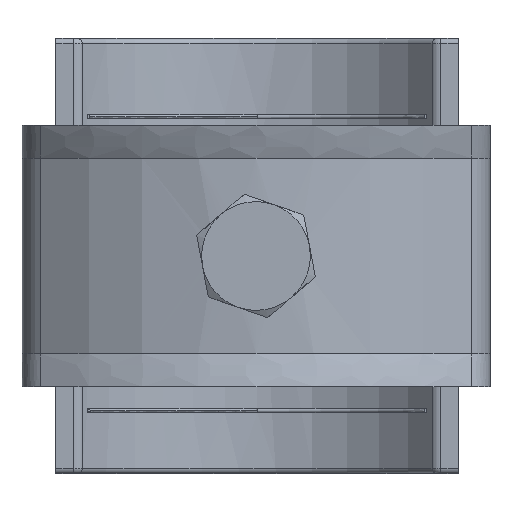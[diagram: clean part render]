
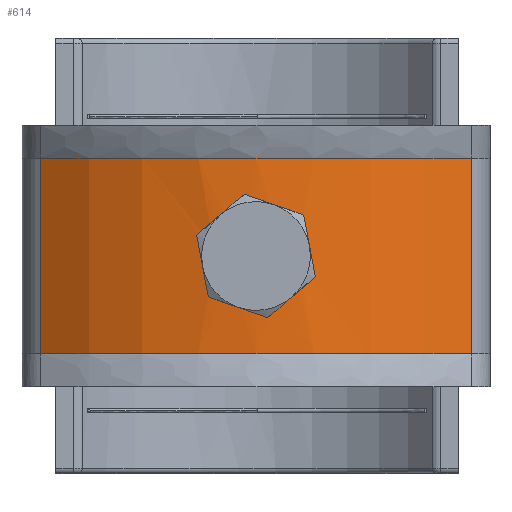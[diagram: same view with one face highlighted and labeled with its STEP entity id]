
A CAD part, front view. The second image highlights one B-rep face of the part: STEP entity #614.
In plain terms, the highlighted cylindrical face has radius 32 mm (diameter 64 mm), a partial arc.
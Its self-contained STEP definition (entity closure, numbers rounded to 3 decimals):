
#614=ADVANCED_FACE('',(#2883,#2885),#2887,.T.);
#2883=FACE_BOUND('',#2884,.T.);
#2884=EDGE_LOOP('',(#4930,#4931,#4932,#4933));
#2885=FACE_BOUND('',#2886,.T.);
#2886=EDGE_LOOP('',(#4934));
#2887=CYLINDRICAL_SURFACE('',#2888,32.);
#2888=AXIS2_PLACEMENT_3D('',#2889,#2890,#2891);
#2889=CARTESIAN_POINT('',(0.,31.985,-9.));
#2890=DIRECTION('',(0.,0.,1.));
#2891=DIRECTION('',(-0.618,-0.786,0.));
#4930=ORIENTED_EDGE('',*,*,#5858,.F.);
#4931=ORIENTED_EDGE('',*,*,#5843,.T.);
#4932=ORIENTED_EDGE('',*,*,#5853,.F.);
#4933=ORIENTED_EDGE('',*,*,#5837,.F.);
#4934=ORIENTED_EDGE('',*,*,#5859,.F.);
#5837=EDGE_CURVE('',#6477,#6480,#6481,.T.);
#5843=EDGE_CURVE('',#6487,#6484,#6489,.T.);
#5853=EDGE_CURVE('',#6480,#6484,#6502,.T.);
#5858=EDGE_CURVE('',#6487,#6477,#6508,.F.);
#5859=EDGE_CURVE('',#6509,#6509,#6510,.T.);
#6477=VERTEX_POINT('',#7696);
#6480=VERTEX_POINT('',#7704);
#6481=LINE('',#7705,#7706);
#6484=VERTEX_POINT('',#7715);
#6487=VERTEX_POINT('',#7723);
#6489=LINE('',#7728,#7729);
#6502=CIRCLE('',#7765,32.);
#6508=CIRCLE('',#7784,32.);
#6509=VERTEX_POINT('',#7788);
#6510=B_SPLINE_CURVE_WITH_KNOTS('',3,
(#7789,#7790,#7791,#7792,#7793,#7794,#7795,#7796,#7797,#7798,#7799,#7800,#7801,#7802,
#7803,#7804,#7805,#7806,#7807,#7808,#7809,#7810,#7811,#7812,#7813,#7814,#7815,#7816,
#7817,#7818,#7819,#7820,#7821,#7822,#7823,#7824,#7825,#7826,#7827,#7828,#7829,#7830,
#7831,#7832,#7833,#7834,#7835,#7836,#7837,#7838,#7839,#7840,#7841,#7842,#7843,#7844,
#7845,#7846,#7847,#7848,#7849,#7850,#7851,#7852,#7853,#7854,#7855,#7856,#7857,#7858,
#7859,#7860,#7861,#7862,#7863,#7864,#7865,#7866,#7867,#7868,#7869,#7870,#7871),
.UNSPECIFIED.,.T.,.F.,
(4,1,1,1,1,1,1,1,1,1,1,1,1,1,1,1,1,1,1,1,1,1,1,1,1,1,1,1,1,1,1,1,1,1,1,1,1,1,1,1,
1,1,1,1,1,1,1,1,1,1,1,1,1,1,1,1,1,1,1,1,1,1,1,1,1,1,1,1,1,1,1,1,1,1,1,1,1,1,1,1,
4),
(0.,0.012,0.024,0.038,0.053,
0.071,0.091,0.11,0.127,0.141,
0.153,0.164,0.178,0.195,0.212,
0.229,0.243,0.257,0.274,0.292,
0.311,0.326,0.338,0.346,0.354,
0.362,0.372,0.384,0.398,0.413,
0.426,0.44,0.454,0.467,0.479,
0.491,0.501,0.511,0.518,0.526,
0.535,0.544,0.553,0.565,0.58,
0.596,0.612,0.625,0.636,0.648,
0.66,0.671,0.683,0.697,0.711,
0.726,0.74,0.754,0.768,0.784,
0.802,0.819,0.834,0.844,0.853,
0.86,0.866,0.872,0.878,0.884,
0.892,0.903,0.916,0.931,0.945,
0.957,0.967,0.976,0.984,0.992,
1.),
.UNSPECIFIED.);
#7696=CARTESIAN_POINT('',(-19.782,6.832,-9.));
#7704=CARTESIAN_POINT('',(-19.782,6.832,9.));
#7705=CARTESIAN_POINT('',(-19.782,6.832,-9.));
#7706=VECTOR('',#7707,1.);
#7707=DIRECTION('',(0.,0.,1.));
#7715=CARTESIAN_POINT('',(19.782,6.832,9.));
#7723=CARTESIAN_POINT('',(19.782,6.832,-9.));
#7728=CARTESIAN_POINT('',(19.782,6.832,-9.));
#7729=VECTOR('',#7730,1.);
#7730=DIRECTION('',(0.,0.,1.));
#7765=AXIS2_PLACEMENT_3D('',#7766,#7767,#7768);
#7766=CARTESIAN_POINT('',(0.,31.985,9.));
#7767=DIRECTION('',(0.,0.,1.));
#7768=DIRECTION('',(-0.618,-0.786,0.));
#7784=AXIS2_PLACEMENT_3D('',#7785,#7786,#7787);
#7785=CARTESIAN_POINT('',(0.,31.985,-9.));
#7786=DIRECTION('',(0.,0.,1.));
#7787=DIRECTION('',(-0.618,-0.786,0.));
#7788=CARTESIAN_POINT('',(3.938,0.23,0.));
#7789=CARTESIAN_POINT('',(3.938,0.228,0.));
#7790=CARTESIAN_POINT('',(3.938,0.228,0.096));
#7791=CARTESIAN_POINT('',(3.931,0.228,0.297));
#7792=CARTESIAN_POINT('',(3.897,0.223,0.611));
#7793=CARTESIAN_POINT('',(3.83,0.215,0.954));
#7794=CARTESIAN_POINT('',(3.72,0.202,1.335));
#7795=CARTESIAN_POINT('',(3.555,0.183,1.744));
#7796=CARTESIAN_POINT('',(3.329,0.159,2.155));
#7797=CARTESIAN_POINT('',(3.063,0.132,2.528));
#7798=CARTESIAN_POINT('',(2.785,0.106,2.837));
#7799=CARTESIAN_POINT('',(2.518,0.084,3.081));
#7800=CARTESIAN_POINT('',(2.269,0.065,3.274));
#7801=CARTESIAN_POINT('',(2.009,0.048,3.446));
#7802=CARTESIAN_POINT('',(1.704,0.03,3.613));
#7803=CARTESIAN_POINT('',(1.337,0.012,3.771));
#7804=CARTESIAN_POINT('',(0.937,-0.002,3.893));
#7805=CARTESIAN_POINT('',(0.546,-0.011,3.968));
#7806=CARTESIAN_POINT('',(0.175,-0.015,4.002));
#7807=CARTESIAN_POINT('',(-0.199,-0.015,4.001));
#7808=CARTESIAN_POINT('',(-0.606,-0.01,3.961));
#7809=CARTESIAN_POINT('',(-1.038,0.001,3.868));
#7810=CARTESIAN_POINT('',(-1.449,0.017,3.728));
#7811=CARTESIAN_POINT('',(-1.794,0.035,3.567));
#7812=CARTESIAN_POINT('',(-2.051,0.051,3.418));
#7813=CARTESIAN_POINT('',(-2.246,0.064,3.288));
#7814=CARTESIAN_POINT('',(-2.408,0.076,3.167));
#7815=CARTESIAN_POINT('',(-2.571,0.088,3.033));
#7816=CARTESIAN_POINT('',(-2.751,0.103,2.867));
#7817=CARTESIAN_POINT('',(-2.955,0.122,2.651));
#7818=CARTESIAN_POINT('',(-3.167,0.142,2.387));
#7819=CARTESIAN_POINT('',(-3.363,0.162,2.092));
#7820=CARTESIAN_POINT('',(-3.529,0.18,1.787));
#7821=CARTESIAN_POINT('',(-3.666,0.196,1.474));
#7822=CARTESIAN_POINT('',(-3.776,0.209,1.155));
#7823=CARTESIAN_POINT('',(-3.856,0.218,0.834));
#7824=CARTESIAN_POINT('',(-3.908,0.225,0.529));
#7825=CARTESIAN_POINT('',(-3.934,0.228,0.243));
#7826=CARTESIAN_POINT('',(-3.941,0.229,-0.019));
#7827=CARTESIAN_POINT('',(-3.933,0.228,-0.249));
#7828=CARTESIAN_POINT('',(-3.914,0.225,-0.457));
#7829=CARTESIAN_POINT('',(-3.887,0.222,-0.656));
#7830=CARTESIAN_POINT('',(-3.848,0.217,-0.864));
#7831=CARTESIAN_POINT('',(-3.793,0.211,-1.086));
#7832=CARTESIAN_POINT('',(-3.718,0.202,-1.329));
#7833=CARTESIAN_POINT('',(-3.609,0.189,-1.613));
#7834=CARTESIAN_POINT('',(-3.453,0.172,-1.936));
#7835=CARTESIAN_POINT('',(-3.252,0.151,-2.269));
#7836=CARTESIAN_POINT('',(-3.029,0.129,-2.565));
#7837=CARTESIAN_POINT('',(-2.807,0.108,-2.811));
#7838=CARTESIAN_POINT('',(-2.588,0.09,-3.02));
#7839=CARTESIAN_POINT('',(-2.362,0.072,-3.205));
#7840=CARTESIAN_POINT('',(-2.125,0.056,-3.372));
#7841=CARTESIAN_POINT('',(-1.876,0.04,-3.521));
#7842=CARTESIAN_POINT('',(-1.603,0.025,-3.658));
#7843=CARTESIAN_POINT('',(-1.294,0.011,-3.784));
#7844=CARTESIAN_POINT('',(-0.951,-0.001,-3.888));
#7845=CARTESIAN_POINT('',(-0.597,-0.01,-3.959));
#7846=CARTESIAN_POINT('',(-0.25,-0.014,-3.997));
#7847=CARTESIAN_POINT('',(0.095,-0.015,-4.004));
#7848=CARTESIAN_POINT('',(0.459,-0.012,-3.979));
#7849=CARTESIAN_POINT('',(0.855,-0.004,-3.912));
#7850=CARTESIAN_POINT('',(1.266,0.009,-3.796));
#7851=CARTESIAN_POINT('',(1.648,0.027,-3.64));
#7852=CARTESIAN_POINT('',(1.959,0.045,-3.475));
#7853=CARTESIAN_POINT('',(2.193,0.06,-3.326));
#7854=CARTESIAN_POINT('',(2.367,0.073,-3.199));
#7855=CARTESIAN_POINT('',(2.507,0.083,-3.087));
#7856=CARTESIAN_POINT('',(2.629,0.093,-2.98));
#7857=CARTESIAN_POINT('',(2.739,0.103,-2.875));
#7858=CARTESIAN_POINT('',(2.844,0.112,-2.768));
#7859=CARTESIAN_POINT('',(2.957,0.122,-2.645));
#7860=CARTESIAN_POINT('',(3.088,0.134,-2.487));
#7861=CARTESIAN_POINT('',(3.245,0.15,-2.273));
#7862=CARTESIAN_POINT('',(3.416,0.168,-2.001));
#7863=CARTESIAN_POINT('',(3.577,0.186,-1.687));
#7864=CARTESIAN_POINT('',(3.705,0.2,-1.369));
#7865=CARTESIAN_POINT('',(3.795,0.211,-1.082));
#7866=CARTESIAN_POINT('',(3.855,0.218,-0.833));
#7867=CARTESIAN_POINT('',(3.895,0.223,-0.608));
#7868=CARTESIAN_POINT('',(3.921,0.226,-0.396));
#7869=CARTESIAN_POINT('',(3.935,0.228,-0.193));
#7870=CARTESIAN_POINT('',(3.938,0.228,-0.063));
#7871=CARTESIAN_POINT('',(3.938,0.228,0.));
